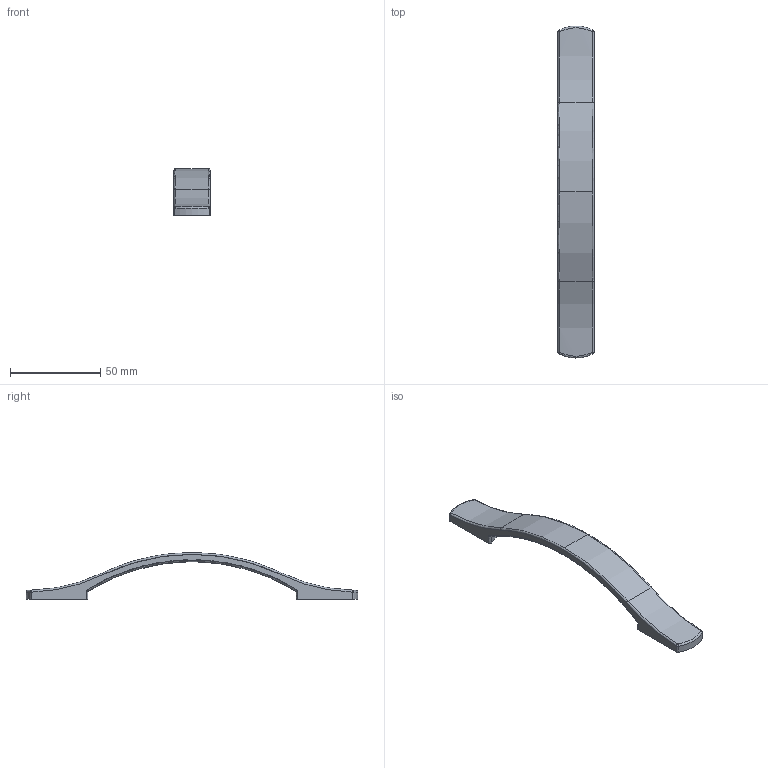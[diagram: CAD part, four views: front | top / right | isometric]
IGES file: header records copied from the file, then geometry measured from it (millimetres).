
Start section: C
Global section: file name: 8014l.igs; native system: By Siemens PLM Incorporated; preprocessor: XPlus GENERIC/IGES 16.0.42; author: Author; organization: Title; date: 20230827.121428; units: millimetre
Bounding box: 20 x 184 x 26 mm (x, y, z)
Surface area: 11045.9 mm2 (no closed solid volume)
Topology: 0 solids, 0 shells, 58 faces, 284 edges, 284 vertices
Faces by surface type: bspline 58
